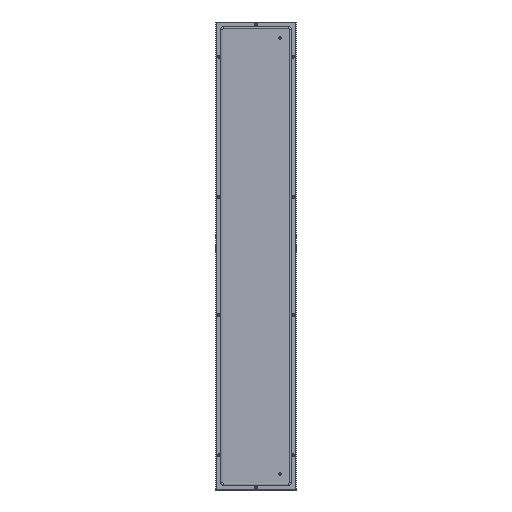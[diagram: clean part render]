
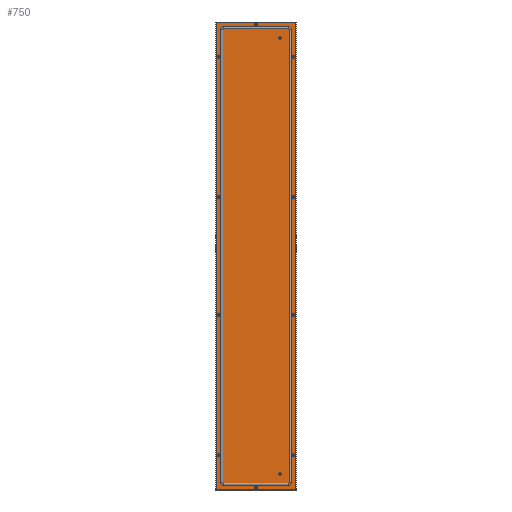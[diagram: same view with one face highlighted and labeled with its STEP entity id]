
A CAD part, left-side view. The second image highlights one B-rep face of the part: STEP entity #750.
In plain terms, the highlighted planar face has unit normal (-1, 0, 0).
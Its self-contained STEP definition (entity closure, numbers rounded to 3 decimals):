
#750=ADVANCED_FACE('',(#1117,#1119,#1121,#1123,#1125,#1127,#1129,#1131,#1133,#1135,
#1137,#1139,#1141),#1143,.F.);
#1117=FACE_BOUND('',#1118,.T.);
#1118=EDGE_LOOP('',(#3353,#3354,#3355,#3356));
#1119=FACE_BOUND('',#1120,.T.);
#1120=EDGE_LOOP('',(#3357));
#1121=FACE_BOUND('',#1122,.T.);
#1122=EDGE_LOOP('',(#3358));
#1123=FACE_BOUND('',#1124,.T.);
#1124=EDGE_LOOP('',(#3359));
#1125=FACE_BOUND('',#1126,.T.);
#1126=EDGE_LOOP('',(#3360));
#1127=FACE_BOUND('',#1128,.T.);
#1128=EDGE_LOOP('',(#3361));
#1129=FACE_BOUND('',#1130,.T.);
#1130=EDGE_LOOP('',(#3362));
#1131=FACE_BOUND('',#1132,.T.);
#1132=EDGE_LOOP('',(#3363));
#1133=FACE_BOUND('',#1134,.T.);
#1134=EDGE_LOOP('',(#3364));
#1135=FACE_BOUND('',#1136,.T.);
#1136=EDGE_LOOP('',(#3365));
#1137=FACE_BOUND('',#1138,.T.);
#1138=EDGE_LOOP('',(#3366));
#1139=FACE_BOUND('',#1140,.T.);
#1140=EDGE_LOOP('',(#3367));
#1141=FACE_BOUND('',#1142,.T.);
#1142=EDGE_LOOP('',(#3368));
#1143=PLANE('',#1144);
#1144=AXIS2_PLACEMENT_3D('',#1145,#1146,#1147);
#1145=CARTESIAN_POINT('',(0.,0.,0.));
#1146=DIRECTION('',(1.,0.,0.));
#1147=DIRECTION('',(0.,1.,0.));
#3353=ORIENTED_EDGE('',*,*,#3853,.T.);
#3354=ORIENTED_EDGE('',*,*,#3854,.T.);
#3355=ORIENTED_EDGE('',*,*,#3855,.T.);
#3356=ORIENTED_EDGE('',*,*,#3856,.T.);
#3357=ORIENTED_EDGE('',*,*,#3857,.T.);
#3358=ORIENTED_EDGE('',*,*,#3858,.T.);
#3359=ORIENTED_EDGE('',*,*,#3859,.F.);
#3360=ORIENTED_EDGE('',*,*,#3860,.F.);
#3361=ORIENTED_EDGE('',*,*,#3861,.F.);
#3362=ORIENTED_EDGE('',*,*,#3862,.F.);
#3363=ORIENTED_EDGE('',*,*,#3863,.F.);
#3364=ORIENTED_EDGE('',*,*,#3864,.F.);
#3365=ORIENTED_EDGE('',*,*,#3865,.F.);
#3366=ORIENTED_EDGE('',*,*,#3866,.F.);
#3367=ORIENTED_EDGE('',*,*,#3867,.F.);
#3368=ORIENTED_EDGE('',*,*,#3868,.F.);
#3853=EDGE_CURVE('',#4163,#4164,#4165,.T.);
#3854=EDGE_CURVE('',#4164,#4166,#4167,.T.);
#3855=EDGE_CURVE('',#4166,#4168,#4169,.T.);
#3856=EDGE_CURVE('',#4168,#4163,#4170,.T.);
#3857=EDGE_CURVE('',#4171,#4171,#4172,.F.);
#3858=EDGE_CURVE('',#4173,#4173,#4174,.F.);
#3859=EDGE_CURVE('',#4175,#4175,#4176,.T.);
#3860=EDGE_CURVE('',#4177,#4177,#4178,.F.);
#3861=EDGE_CURVE('',#4179,#4179,#4180,.F.);
#3862=EDGE_CURVE('',#4181,#4181,#4182,.F.);
#3863=EDGE_CURVE('',#4183,#4183,#4184,.F.);
#3864=EDGE_CURVE('',#4185,#4185,#4186,.F.);
#3865=EDGE_CURVE('',#4187,#4187,#4188,.F.);
#3866=EDGE_CURVE('',#4189,#4189,#4190,.F.);
#3867=EDGE_CURVE('',#4191,#4191,#4192,.F.);
#3868=EDGE_CURVE('',#4193,#4193,#4194,.F.);
#4163=VERTEX_POINT('',#4783);
#4164=VERTEX_POINT('',#4784);
#4165=LINE('',#4785,#4786);
#4166=VERTEX_POINT('',#4788);
#4167=LINE('',#4789,#4790);
#4168=VERTEX_POINT('',#4792);
#4169=LINE('',#4793,#4794);
#4170=LINE('',#4796,#4797);
#4171=VERTEX_POINT('',#4799);
#4172=CIRCLE('',#4800,5.75);
#4173=VERTEX_POINT('',#4804);
#4174=CIRCLE('',#4805,5.75);
#4175=VERTEX_POINT('',#4809);
#4176=CIRCLE('',#4810,6.954);
#4177=VERTEX_POINT('',#4814);
#4178=CIRCLE('',#4815,6.954);
#4179=VERTEX_POINT('',#4819);
#4180=CIRCLE('',#4820,6.954);
#4181=VERTEX_POINT('',#4824);
#4182=CIRCLE('',#4825,6.954);
#4183=VERTEX_POINT('',#4829);
#4184=CIRCLE('',#4830,6.954);
#4185=VERTEX_POINT('',#4834);
#4186=CIRCLE('',#4835,6.954);
#4187=VERTEX_POINT('',#4839);
#4188=CIRCLE('',#4840,6.954);
#4189=VERTEX_POINT('',#4844);
#4190=CIRCLE('',#4845,6.954);
#4191=VERTEX_POINT('',#4849);
#4192=CIRCLE('',#4850,6.954);
#4193=VERTEX_POINT('',#4854);
#4194=CIRCLE('',#4855,6.954);
#4783=CARTESIAN_POINT('',(0.,-183.7,-1082.7));
#4784=CARTESIAN_POINT('',(0.,-183.7,1082.7));
#4785=CARTESIAN_POINT('',(0.,-183.7,-1082.7));
#4786=VECTOR('',#4787,1.);
#4787=DIRECTION('',(0.,0.,1.));
#4788=CARTESIAN_POINT('',(0.,183.7,1082.7));
#4789=CARTESIAN_POINT('',(0.,-183.7,1082.7));
#4790=VECTOR('',#4791,1.);
#4791=DIRECTION('',(0.,1.,0.));
#4792=CARTESIAN_POINT('',(0.,183.7,-1082.7));
#4793=CARTESIAN_POINT('',(0.,183.7,1082.7));
#4794=VECTOR('',#4795,1.);
#4795=DIRECTION('',(0.,0.,-1.));
#4796=CARTESIAN_POINT('',(0.,183.7,-1082.7));
#4797=VECTOR('',#4798,1.);
#4798=DIRECTION('',(0.,-1.,0.));
#4799=CARTESIAN_POINT('',(0.,-117.25,1010.5));
#4800=AXIS2_PLACEMENT_3D('',#4801,#4802,#4803);
#4801=CARTESIAN_POINT('',(0.,-111.5,1010.5));
#4802=DIRECTION('',(-1.,0.,0.));
#4803=DIRECTION('',(0.,-1.,0.));
#4804=CARTESIAN_POINT('',(0.,-117.25,-1010.5));
#4805=AXIS2_PLACEMENT_3D('',#4806,#4807,#4808);
#4806=CARTESIAN_POINT('',(0.,-111.5,-1010.5));
#4807=DIRECTION('',(-1.,0.,0.));
#4808=DIRECTION('',(0.,-1.,0.));
#4809=CARTESIAN_POINT('',(0.,-166.546,925.));
#4810=AXIS2_PLACEMENT_3D('',#4811,#4812,#4813);
#4811=CARTESIAN_POINT('',(0.,-173.5,925.));
#4812=DIRECTION('',(-1.,0.,0.));
#4813=DIRECTION('',(0.,1.,0.));
#4814=CARTESIAN_POINT('',(0.,-166.546,-925.));
#4815=AXIS2_PLACEMENT_3D('',#4816,#4817,#4818);
#4816=CARTESIAN_POINT('',(0.,-173.5,-925.));
#4817=DIRECTION('',(1.,0.,0.));
#4818=DIRECTION('',(0.,1.,0.));
#4819=CARTESIAN_POINT('',(0.,180.454,-925.));
#4820=AXIS2_PLACEMENT_3D('',#4821,#4822,#4823);
#4821=CARTESIAN_POINT('',(0.,173.5,-925.));
#4822=DIRECTION('',(1.,0.,0.));
#4823=DIRECTION('',(0.,1.,0.));
#4824=CARTESIAN_POINT('',(0.,180.454,925.));
#4825=AXIS2_PLACEMENT_3D('',#4826,#4827,#4828);
#4826=CARTESIAN_POINT('',(0.,173.5,925.));
#4827=DIRECTION('',(1.,0.,0.));
#4828=DIRECTION('',(0.,1.,0.));
#4829=CARTESIAN_POINT('',(0.,-166.546,275.));
#4830=AXIS2_PLACEMENT_3D('',#4831,#4832,#4833);
#4831=CARTESIAN_POINT('',(0.,-173.5,275.));
#4832=DIRECTION('',(1.,0.,0.));
#4833=DIRECTION('',(0.,1.,0.));
#4834=CARTESIAN_POINT('',(0.,-166.546,-275.));
#4835=AXIS2_PLACEMENT_3D('',#4836,#4837,#4838);
#4836=CARTESIAN_POINT('',(0.,-173.5,-275.));
#4837=DIRECTION('',(1.,0.,0.));
#4838=DIRECTION('',(0.,1.,0.));
#4839=CARTESIAN_POINT('',(0.,180.454,275.));
#4840=AXIS2_PLACEMENT_3D('',#4841,#4842,#4843);
#4841=CARTESIAN_POINT('',(0.,173.5,275.));
#4842=DIRECTION('',(1.,0.,0.));
#4843=DIRECTION('',(0.,1.,0.));
#4844=CARTESIAN_POINT('',(0.,180.454,-275.));
#4845=AXIS2_PLACEMENT_3D('',#4846,#4847,#4848);
#4846=CARTESIAN_POINT('',(0.,173.5,-275.));
#4847=DIRECTION('',(1.,0.,0.));
#4848=DIRECTION('',(0.,1.,0.));
#4849=CARTESIAN_POINT('',(0.,6.954,1073.5));
#4850=AXIS2_PLACEMENT_3D('',#4851,#4852,#4853);
#4851=CARTESIAN_POINT('',(0.,0.,1073.5));
#4852=DIRECTION('',(1.,0.,0.));
#4853=DIRECTION('',(0.,1.,0.));
#4854=CARTESIAN_POINT('',(0.,6.954,-1073.5));
#4855=AXIS2_PLACEMENT_3D('',#4856,#4857,#4858);
#4856=CARTESIAN_POINT('',(0.,0.,-1073.5));
#4857=DIRECTION('',(1.,0.,0.));
#4858=DIRECTION('',(0.,1.,0.));
